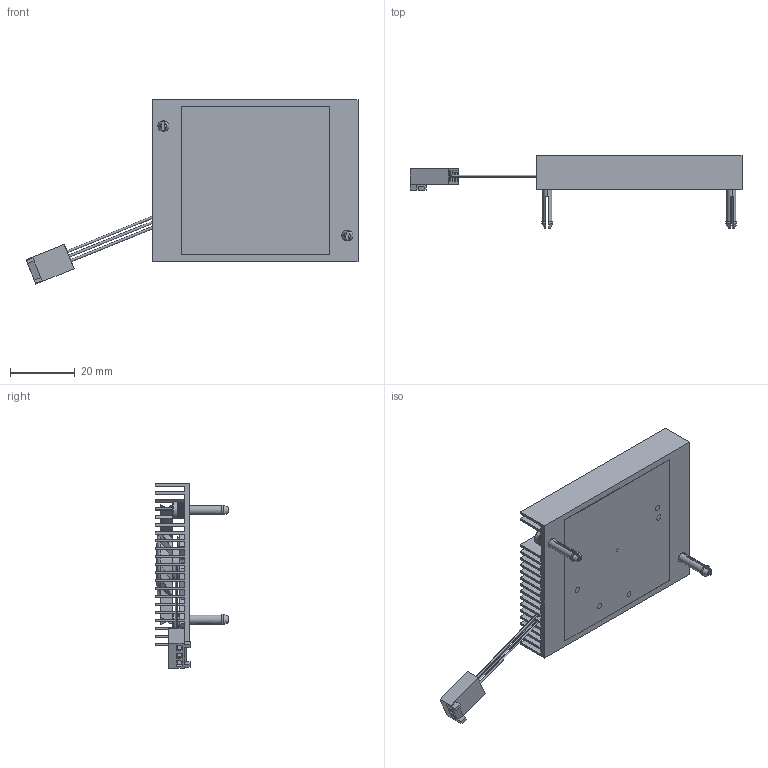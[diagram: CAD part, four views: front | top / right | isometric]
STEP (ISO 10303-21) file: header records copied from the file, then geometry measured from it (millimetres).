
FILE_DESCRIPTION (( 'STEP AP214' ), '1' );
FILE_NAME ('SZ12L+B.STEP', '2023-02-15T00:45:11', ( '' ), ( '' ), 'SwSTEP 2.0', 'SolidWorks 2020', '' );
FILE_SCHEMA (( 'AUTOMOTIVE_DESIGN' ));
Length unit declared in the file: inch
Products named in the file (1): SZ12L+B
Bounding box: 102.52 x 22.61 x 56.92 mm (x, y, z)
Volume: 12354.6 mm3; surface area: 29436.8 mm2
Topology: 9 solids, 9 shells, 967 faces, 2612 edges, 1719 vertices
Faces by surface type: plane 569, bspline 210, cylinder 140, cone 46, torus 2
Entity records: 56862 total; most frequent: CARTESIAN_POINT 21529, ORIENTED_EDGE 5212, DIRECTION 3828, EDGE_CURVE 2606, VERTEX_POINT 1719, LINE 1588, VECTOR 1588, AXIS2_PLACEMENT_3D 1120
